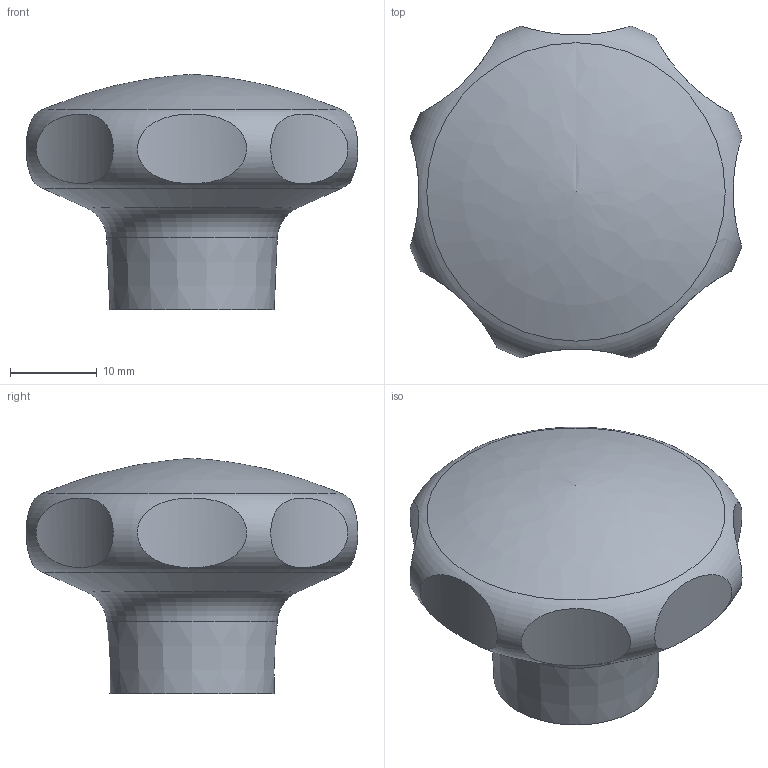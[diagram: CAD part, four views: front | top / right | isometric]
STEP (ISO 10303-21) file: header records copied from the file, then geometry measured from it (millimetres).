
FILE_DESCRIPTION( ('This file contains a STEP AP42 implementation' ,'as created by ZW3D STEP Interface translator.') ,'2;1' );
FILE_NAME( 'RC-40.stp' ,'26 811. 75919', (''), ('ZWCAD Software Co.'), 'Version 1.0', 'ZW3D to STEP translator', '' );
FILE_SCHEMA(('AP242_MANAGED_MODEL_BASED_3D_ENGINEERING_MIM_LF { 1 0 10303 442 1 1 4 }'));
Length unit declared in the file: millimetre
Products named in the file (1): 0
Bounding box: 38.38 x 38.38 x 27.2 mm (x, y, z)
Volume: 8728.4 mm3; surface area: 10480.4 mm2
Topology: 3 solids, 3 shells, 55 faces, 104 edges, 64 vertices
Faces by surface type: plane 26, cylinder 18, cone 5, bspline 3, torus 3
Full cylindrical faces by diameter (mm): 4.2 x1, 10 x2, 11.3 x1, 14 x1, 30.8 x1, 33.75 x2, 34.5 x2
Entity records: 1697 total; most frequent: CARTESIAN_POINT 522, DIRECTION 227, ORIENTED_EDGE 204, EDGE_CURVE 102, AXIS2_PLACEMENT_3D 88, EDGE_LOOP 70, VERTEX_POINT 64, FACE_OUTER_BOUND 55
